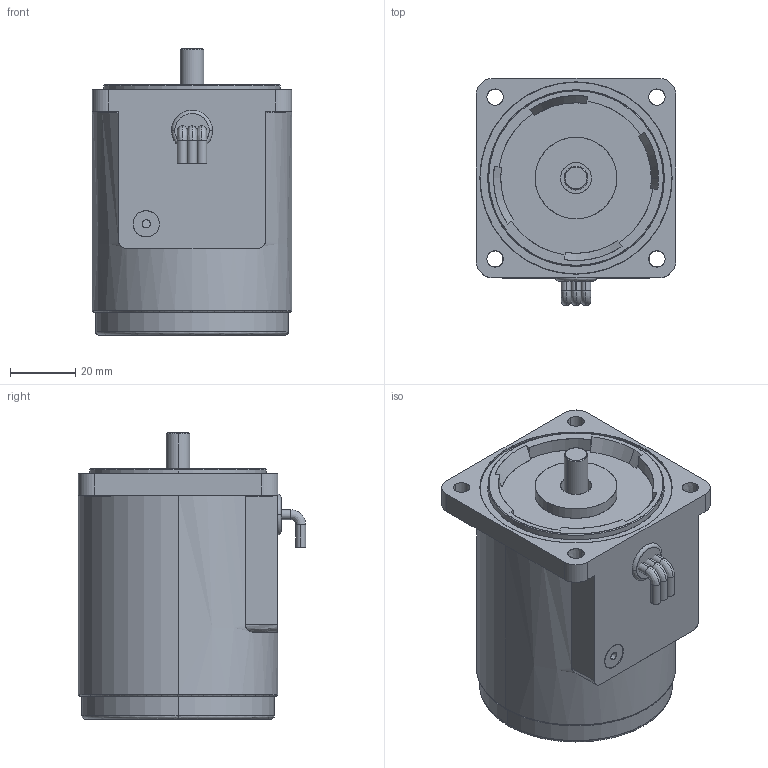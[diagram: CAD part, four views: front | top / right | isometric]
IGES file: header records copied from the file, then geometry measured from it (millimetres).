
Start section: SolidWorks IGES file using analytic representation for surfaces
Bounding box: 61 x 69.5 x 87.5 mm (x, y, z)
Surface area: 44985.7 mm2 (no closed solid volume)
Topology: 0 solids, 0 shells, 150 faces, 2862 edges, 2862 vertices
Faces by surface type: revolution 75, bspline 75
